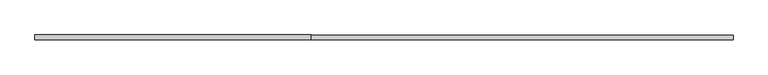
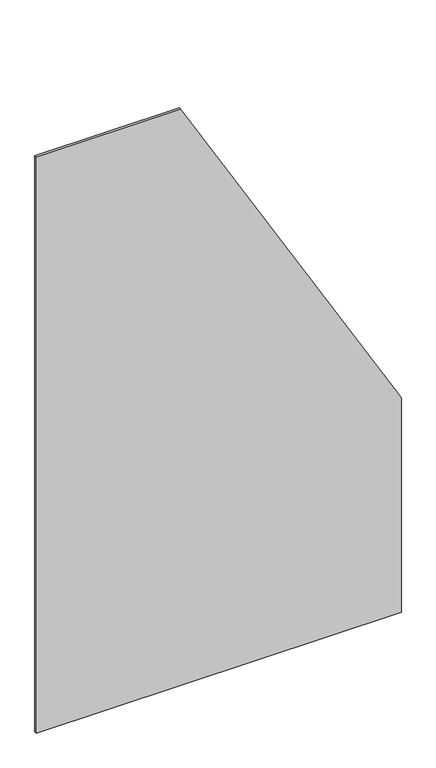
"""IFC4 building model written with IfcOpenShell, lengths in millimetres: plate geometry, 系統嵌板 : 玻璃 1.0cm."""

import ifcopenshell
import ifcopenshell.guid

model = None  # the IFC model being written
_history = None  # IfcOwnerHistory: only IFC2X3 demands one
_inside = {}  # id of a spatial element -> (the spatial element, [elements in it])
_under = {}  # id of a project, library or spatial element -> (it, [spatial elements below it])
_declared = {}  # id of a project -> (the project, [libraries it declares])
_typed = {}  # id of a type object -> (the type object, [elements of that type])
_made_of = {}  # id of a material, layer set ... -> (it, [elements and type objects made of it])


def new_model(schema):
    """Start an empty IFC model of exactly this schema.

    Asked for "IFC4X3", IfcOpenShell would pick the latest addendum, in which some entities
    have other attributes; the version numbers below select the first issue.
    IFC2X3 requires an IfcOwnerHistory on every rooted entity: one is made here for all.
    """
    global model, _history
    if schema == "IFC4X3":
        model = ifcopenshell.file(schema_version=(4, 3, 0, 0))
    else:
        model = ifcopenshell.file(schema=schema)
    _inside.clear()
    _under.clear()
    _declared.clear()
    _typed.clear()
    _made_of.clear()
    _history = None
    if model.schema == "IFC2X3":
        org = make("IfcOrganization", Name="unknown")
        user = make(
            "IfcPersonAndOrganization",
            ThePerson=make("IfcPerson", FamilyName="unknown"),
            TheOrganization=org,
        )
        app = make(
            "IfcApplication",
            ApplicationDeveloper=org,
            Version="unknown",
            ApplicationFullName="unknown",
            ApplicationIdentifier="unknown",
        )
        _history = make(
            "IfcOwnerHistory",
            OwningUser=user,
            OwningApplication=app,
            ChangeAction="ADDED",
            CreationDate=0,
        )
    return model


def make(cls, **values):
    """One entity of the class cls with the attributes given. An attribute that is None is left unset."""
    return model.create_entity(
        cls, **{name: value for name, value in values.items() if value is not None}
    )


def rooted(cls, **values):
    """An entity with a GlobalId (a new one), such as an element, a storey or a relation."""
    return make(cls, GlobalId=ifcopenshell.guid.new(), OwnerHistory=_history, **values)


def si_unit(unit_type, name, prefix=None):
    """IfcSIUnit, for example si_unit("LENGTHUNIT", "METRE", prefix="MILLI")."""
    return make("IfcSIUnit", UnitType=unit_type, Prefix=prefix, Name=name)


def assignment(units):
    """IfcUnitAssignment: the units of a project."""
    return None if units is None else make("IfcUnitAssignment", Units=units)


def point(xyz):
    """IfcCartesianPoint."""
    return None if xyz is None else make("IfcCartesianPoint", Coordinates=xyz)


def direction(xyz):
    """IfcDirection."""
    return None if xyz is None else make("IfcDirection", DirectionRatios=xyz)


def frame(location, z_axis=None, x_axis=None):
    """IfcAxis2Placement3D, a coordinate frame: its origin and axes. An axis left out is left unset."""
    return make(
        "IfcAxis2Placement3D",
        Location=point(location),
        Axis=direction(z_axis),
        RefDirection=direction(x_axis),
    )


def origin():
    """The frame at (0, 0, 0) with its axes left unset."""
    return frame((0.0, 0.0, 0.0))


def place(relative_to, where):
    """IfcLocalPlacement: puts the frame where relative to a parent placement (None: the world)."""
    return make(
        "IfcLocalPlacement", PlacementRelTo=relative_to, RelativePlacement=where
    )


def context(
    kind, dimensions, precision=None, world=None, true_north=None, identifier=None
):
    """IfcGeometricRepresentationContext, for example the 3D "Model" context."""
    return make(
        "IfcGeometricRepresentationContext",
        ContextIdentifier=identifier,
        ContextType=kind,
        CoordinateSpaceDimension=dimensions,
        Precision=precision,
        WorldCoordinateSystem=world,
        TrueNorth=true_north,
    )


def project(units=None, contexts=None):
    """IfcProject with its units and contexts."""
    return rooted(
        "IfcProject",
        Name="project",
        RepresentationContexts=contexts,
        UnitsInContext=assignment(units),
    )


def spatial(cls, under=None, at=None, **own):
    """A site, building, storey or space (cls), placed at a placement, below another one or the project."""
    s = rooted(cls, ObjectPlacement=at, **own)
    if under is not None:
        _under.setdefault(under.id(), (under, []))[1].append(s)
    return s


def polyline(points):
    """IfcPolyline through the points."""
    return make("IfcPolyline", Points=[point(p) for p in points])


def outline(outer, holes=None, kind="AREA"):
    """IfcArbitraryClosedProfileDef: a profile drawn as a closed curve; with holes, ...WithVoids."""
    if holes is None:
        return make("IfcArbitraryClosedProfileDef", ProfileType=kind, OuterCurve=outer)
    return make(
        "IfcArbitraryProfileDefWithVoids",
        ProfileType=kind,
        OuterCurve=outer,
        InnerCurves=holes,
    )


def extrude(swept, where, along, depth):
    """IfcExtrudedAreaSolid: the profile swept, set in the frame where, extruded along a direction by depth."""
    return make(
        "IfcExtrudedAreaSolid",
        SweptArea=swept,
        Position=where,
        ExtrudedDirection=direction(along),
        Depth=depth,
    )


def shape(context_of_items, identifier, shape_type, items):
    """IfcShapeRepresentation: the items that make up one representation, for example the "Body"."""
    return make(
        "IfcShapeRepresentation",
        ContextOfItems=context_of_items,
        RepresentationIdentifier=identifier,
        RepresentationType=shape_type,
        Items=items,
    )


def source(mapping_origin, context_of_items, identifier, shape_type, items):
    """IfcRepresentationMap: a shape defined once, which mapped items show again and again."""
    return make(
        "IfcRepresentationMap",
        MappingOrigin=mapping_origin,
        MappedRepresentation=shape(context_of_items, identifier, shape_type, items),
    )


def transform(
    local_origin,
    x_axis=None,
    y_axis=None,
    z_axis=None,
    scale=None,
    scale2=None,
    scale3=None,
    uniform=True,
):
    """IfcCartesianTransformationOperator3D, or its non-uniform kind. x_axis, y_axis, z_axis: its Axis1, 2, 3."""
    if uniform:
        return make(
            "IfcCartesianTransformationOperator3D",
            Axis1=direction(x_axis),
            Axis2=direction(y_axis),
            LocalOrigin=point(local_origin),
            Scale=scale,
            Axis3=direction(z_axis),
        )
    return make(
        "IfcCartesianTransformationOperator3DnonUniform",
        Axis1=direction(x_axis),
        Axis2=direction(y_axis),
        LocalOrigin=point(local_origin),
        Scale=scale,
        Axis3=direction(z_axis),
        Scale2=scale2,
        Scale3=scale3,
    )


def mapped(mapping_source, mapping_target):
    """IfcMappedItem: shows the shape of a source again, moved by a transform."""
    return make(
        "IfcMappedItem", MappingSource=mapping_source, MappingTarget=mapping_target
    )


def made_of(thing, what):
    """Note that an element or type object is made of a material, layer set ...; save() writes the relation."""
    if what is not None:
        _made_of.setdefault(what.id(), (what, []))[1].append(thing)
    return thing


def element(
    cls,
    number,
    at=None,
    inside=None,
    cuts=None,
    type_object=None,
    material=None,
    context=None,
    identifier="Body",
    shape_type=None,
    held_by="IfcProductDefinitionShape",
    body=None,
    shapes=None,
    **own,
):
    """One element of the class cls, such as IfcWall. Its Tag is "e" and its number.

    at: its placement. inside: the storey or other place that contains it. cuts: it is an
    opening in that element (IfcRelVoidsElement). A single representation is given by context,
    identifier, shape_type and body (its items); several are given by shapes. held_by: the class
    of the entity that holds the representations. save() writes the other relations.
    """
    e = rooted(cls, Tag="e%d" % number, ObjectPlacement=at, **own)
    if body is not None:
        shapes = [shape(context, identifier, shape_type, body)]
    if shapes is not None:
        e.Representation = make(held_by, Representations=shapes)
    if inside is not None:
        _inside.setdefault(inside.id(), (inside, []))[1].append(e)
    if cuts is not None:
        rooted(
            "IfcRelVoidsElement", RelatingBuildingElement=cuts, RelatedOpeningElement=e
        )
    if type_object is not None:
        _typed.setdefault(type_object.id(), (type_object, []))[1].append(e)
    return made_of(e, material)


def aggregate(whole, parts):
    """IfcRelAggregates: a whole, such as a stair, and the parts it consists of."""
    return rooted("IfcRelAggregates", RelatingObject=whole, RelatedObjects=parts)


def save(model, path):
    """Write the relations noted so far, then the file.

    IfcRelAggregates (storeys below a building ...), IfcRelContainedInSpatialStructure (elements
    in a storey), IfcRelDefinesByType, IfcRelAssociatesMaterial and IfcRelDeclares: one each for
    every whole, place, type object, material and project.
    """
    for whole, parts in _under.values():
        aggregate(whole, parts)
    for where, things in _inside.values():
        rooted(
            "IfcRelContainedInSpatialStructure",
            RelatedElements=things,
            RelatingStructure=where,
        )
    for kind, things in _typed.values():
        rooted("IfcRelDefinesByType", RelatedObjects=things, RelatingType=kind)
    for what, things in _made_of.values():
        rooted("IfcRelAssociatesMaterial", RelatedObjects=things, RelatingMaterial=what)
    for by, libraries in _declared.values():
        rooted("IfcRelDeclares", RelatingContext=by, RelatedDefinitions=libraries)
    model.write(path)


def plate_a8a28c8a(model_context):
    return source(origin(), model_context, "Body", "SweptSolid", [
        extrude(outline(polyline([(0.0, -750.0), (0.0, 750.0), (930.7806183, 750.0), (2500.0, -155.9892324), (2500.0, -750.0), (0.0, -750.0)])), frame((0.0, -5.0, 0.0), z_axis=(0.0, 1.0, 0.0), x_axis=(0.0, 0.0, 1.0)), (0.0, 0.0, 1.0), 10.0),
    ])


if __name__ == "__main__":
    model = new_model("IFC4")
    model_context = context("Model", 3, world=origin())
    ifc_project = project(units=[si_unit("LENGTHUNIT", "METRE", prefix="MILLI")], contexts=[model_context])
    site = spatial("IfcSite", under=ifc_project)
    building = spatial("IfcBuilding", under=site)
    placement = place(None, origin())
    plate_shape = plate_a8a28c8a(model_context)
    element("IfcPlate", 1, ObjectType="系統嵌板 : 玻璃 1.0cm", at=placement, inside=building, context=model_context, shape_type="MappedRepresentation", body=[
        mapped(plate_shape, transform((0.0, 0.0, 0.0), x_axis=(1.0, 0.0, 0.0), y_axis=(0.0, 1.0, 0.0), z_axis=(0.0, 0.0, 1.0))),
    ])
    save(model, "model.ifc")
